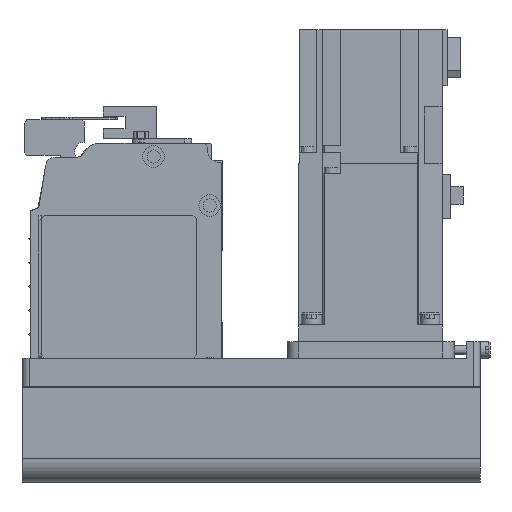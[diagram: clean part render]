
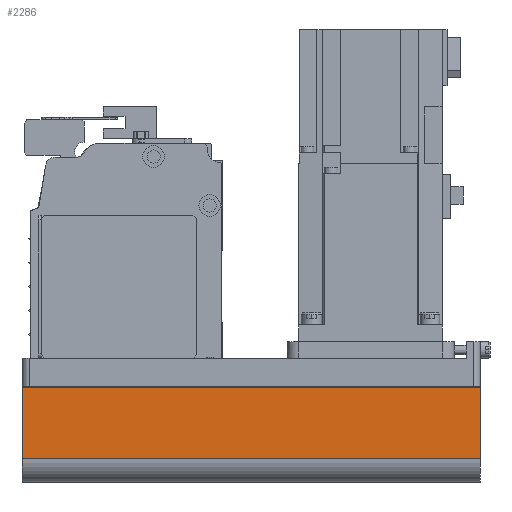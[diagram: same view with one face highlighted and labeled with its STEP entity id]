
A CAD part, left-side view. The second image highlights one B-rep face of the part: STEP entity #2286.
In plain terms, the highlighted planar face has unit normal (-1, 0, 0) as drawn and (0, 1, 0) by its records, which use the part's own axes.
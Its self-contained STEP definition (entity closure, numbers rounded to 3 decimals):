
#2286 = ADVANCED_FACE( '', ( #4723 ), #4724, .T. );
#4723 = FACE_OUTER_BOUND( '', #7163, .T. );
#4724 = PLANE( '', #7164 );
#7163 = EDGE_LOOP( '', ( #13384, #13385, #13386, #13387 ) );
#7164 = AXIS2_PLACEMENT_3D( '', #13388, #13389, #13390 );
#13384 = ORIENTED_EDGE( '', *, *, #16167, .F. );
#13385 = ORIENTED_EDGE( '', *, *, #14872, .F. );
#13386 = ORIENTED_EDGE( '', *, *, #15927, .T. );
#13387 = ORIENTED_EDGE( '', *, *, #15091, .T. );
#13388 = CARTESIAN_POINT( '', ( -192., 40., -42. ) );
#13389 = DIRECTION( '', ( 0., 1., 0. ) );
#13390 = DIRECTION( '', ( 0., 0., 1. ) );
#14872 = EDGE_CURVE( '', #18150, #18146, #18152, .T. );
#15091 = EDGE_CURVE( '', #16619, #17110, #18476, .T. );
#15927 = EDGE_CURVE( '', #18150, #16619, #19597, .T. );
#16167 = EDGE_CURVE( '', #18146, #17110, #19868, .T. );
#16619 = VERTEX_POINT( '', #20440 );
#17110 = VERTEX_POINT( '', #21116 );
#18146 = VERTEX_POINT( '', #22471 );
#18150 = VERTEX_POINT( '', #22476 );
#18152 = LINE( '', #22478, #22479 );
#18476 = LINE( '', #22911, #22912 );
#19597 = LINE( '', #24423, #24424 );
#19868 = LINE( '', #24782, #24783 );
#20440 = CARTESIAN_POINT( '', ( -192., 40., -12.1 ) );
#21116 = CARTESIAN_POINT( '', ( 0., 40., -12.1 ) );
#22471 = CARTESIAN_POINT( '', ( 0., 40., -42. ) );
#22476 = CARTESIAN_POINT( '', ( -192., 40., -42. ) );
#22478 = CARTESIAN_POINT( '', ( -192., 40., -42. ) );
#22479 = VECTOR( '', #26362, 1000. );
#22911 = CARTESIAN_POINT( '', ( -192., 40., -12.1 ) );
#22912 = VECTOR( '', #26627, 1000. );
#24423 = CARTESIAN_POINT( '', ( -192., 40., -42. ) );
#24424 = VECTOR( '', #27546, 1000. );
#24782 = CARTESIAN_POINT( '', ( 0., 40., -42. ) );
#24783 = VECTOR( '', #27706, 1000. );
#26362 = DIRECTION( '', ( 1., 0., 0. ) );
#26627 = DIRECTION( '', ( 1., 0., 0. ) );
#27546 = DIRECTION( '', ( 0., 0., 1. ) );
#27706 = DIRECTION( '', ( 0., 0., 1. ) );
